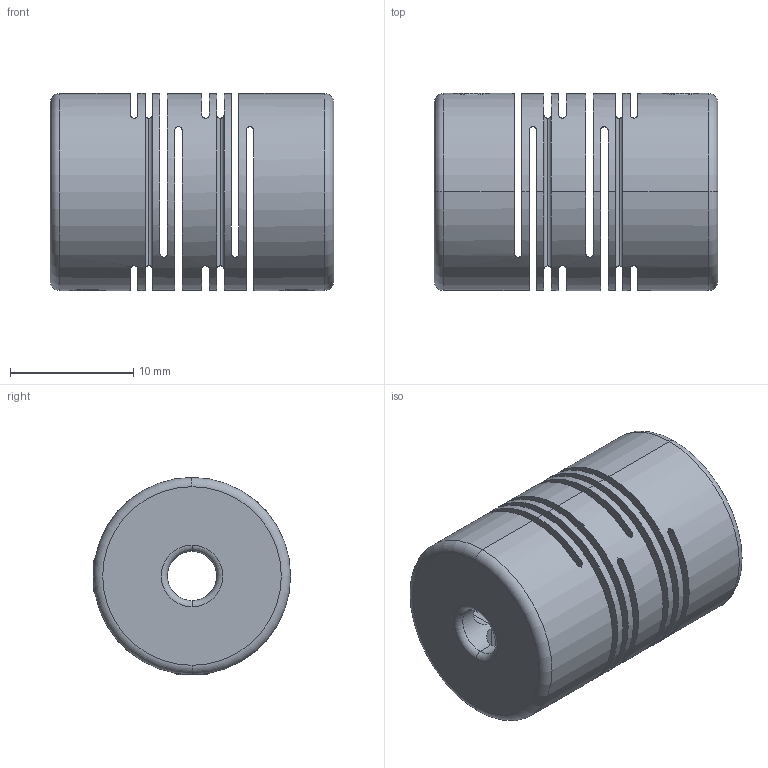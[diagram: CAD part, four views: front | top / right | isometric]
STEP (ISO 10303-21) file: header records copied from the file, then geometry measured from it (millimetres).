
FILE_DESCRIPTION (( 'STEP AP203' ), '1' );
FILE_NAME ('FSMML16-4x5.STEP', '2013-12-14T06:49:05', ( '123' ), ( '' ), 'SwSTEP 2.0', 'SolidWorks 2013', '' );
FILE_SCHEMA (( 'CONFIG_CONTROL_DESIGN' ));
Length unit declared in the file: millimetre
Products named in the file (1): FSMML16-4x5
Bounding box: 23 x 16 x 16 mm (x, y, z)
Surface area: 4208.8 mm2 (no closed solid volume)
Topology: 0 solids, 5 shells, 104 faces, 318 edges, 216 vertices
Faces by surface type: plane 46, cylinder 34, bspline 8, torus 8, cone 8
Entity records: 4447 total; most frequent: CARTESIAN_POINT 1571, ORIENTED_EDGE 576, DIRECTION 552, EDGE_CURVE 318, VERTEX_POINT 216, AXIS2_PLACEMENT_3D 209, LINE 134, VECTOR 134
